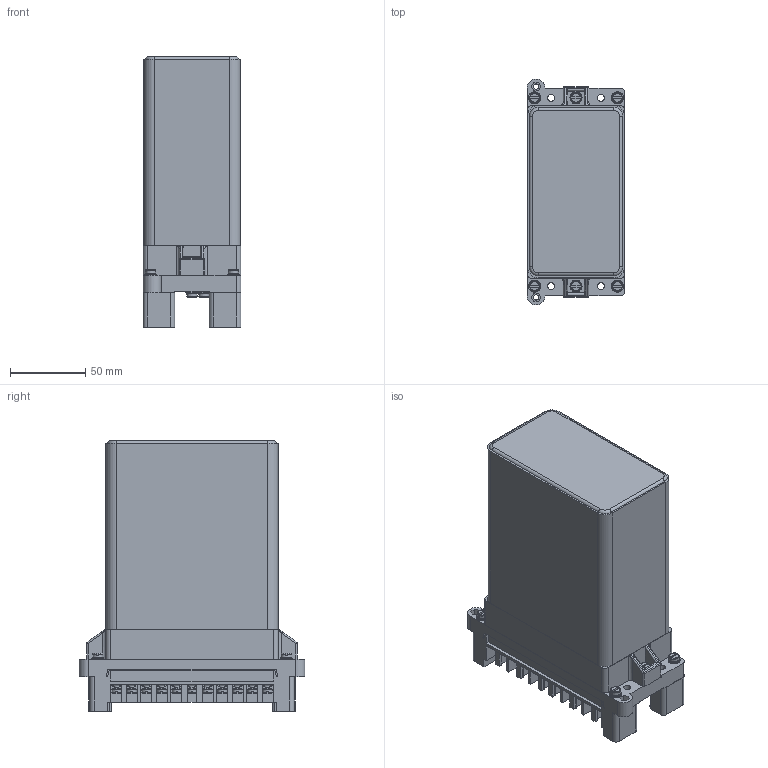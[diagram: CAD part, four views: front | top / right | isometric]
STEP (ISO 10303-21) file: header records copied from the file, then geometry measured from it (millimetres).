
FILE_DESCRIPTION(('STEP AP214'), '1');
FILE_NAME('ÈÃÔÐ.647537.001-87 - Ðåëå âðåìåíè ÐÂ-01', '', ('UNSPECIFIED'), ('UNSPECIFIED'), 'ASCON STEP Converter 1.3', 'ASCON Math Kernel', '');
FILE_SCHEMA(('AUTOMOTIVE_DESIGN { 1 0 10303 214 3 1 1}'));
Length unit declared in the file: millimetre
Products named in the file (1): 让孕.647537.001-87
Bounding box: 65 x 150 x 179.5 mm (x, y, z)
Volume: 1170593.7 mm3; surface area: 128859 mm2
Topology: 1 solids, 1 shells, 7125 faces, 17293 edges, 10309 vertices
Faces by surface type: plane 5517, extrusion 1256, cylinder 226, torus 83, cone 31, bspline 12
Full cylindrical faces by diameter (mm): 3.5 x2, 4 x36, 4.3 x6, 4.5 x25, 5 x2, 5.2 x11, 8 x8
Entity records: 263908 total; most frequent: CARTESIAN_POINT 48174, ORIENTED_EDGE 34202, DIRECTION 27957, EDGE_CURVE 17101, VECTOR 14799, LINE 13543, VERTEX_POINT 10342, EDGE_LOOP 7637
